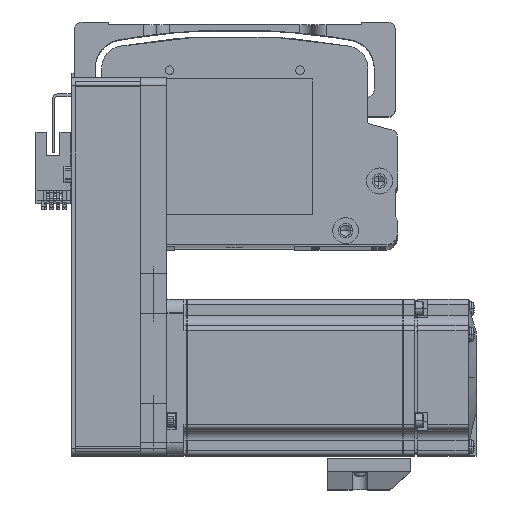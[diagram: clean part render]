
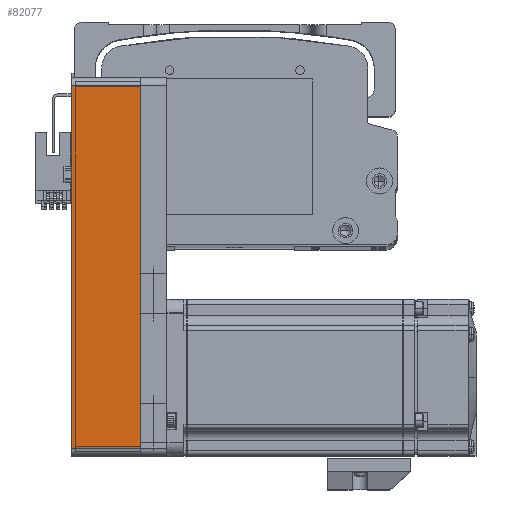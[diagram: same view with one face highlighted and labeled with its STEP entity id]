
A CAD part, top view. The second image highlights one B-rep face of the part: STEP entity #82077.
In plain terms, the highlighted planar face has unit normal (0, 0, 1) as drawn and (0, 1, 0) by its records, which use the part's own axes.
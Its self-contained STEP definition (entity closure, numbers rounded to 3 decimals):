
#1793 = CARTESIAN_POINT ( 'NONE',  ( 72.5, 30., 26.5 ) ) ;
#3953 = CARTESIAN_POINT ( 'NONE',  ( -69.5, 30., 26.5 ) ) ;
#5366 = LINE ( 'NONE', #66568, #71870 ) ;
#7051 = VERTEX_POINT ( 'NONE', #19341 ) ;
#7737 = DIRECTION ( 'NONE',  ( 0., 0., -1. ) ) ;
#8292 = DIRECTION ( 'NONE',  ( 1., 0., 0. ) ) ;
#8455 = VERTEX_POINT ( 'NONE', #3953 ) ;
#12234 = LINE ( 'NONE', #27638, #61618 ) ;
#17480 = EDGE_LOOP ( 'NONE', ( #54730, #35349, #71503, #65793 ) ) ;
#18447 = LINE ( 'NONE', #20647, #65768 ) ;
#19341 = CARTESIAN_POINT ( 'NONE',  ( 69.5, 30., 26.5 ) ) ;
#20647 = CARTESIAN_POINT ( 'NONE',  ( 72.5, 30., 0. ) ) ;
#23588 = CARTESIAN_POINT ( 'NONE',  ( -69.5, 30., 0. ) ) ;
#25766 = EDGE_CURVE ( 'NONE', #34668, #52455, #18447, .T. ) ;
#27638 = CARTESIAN_POINT ( 'NONE',  ( 72.5, 30., 26.5 ) ) ;
#27935 = DIRECTION ( 'NONE',  ( 0., 0., 1. ) ) ;
#30960 = EDGE_CURVE ( 'NONE', #7051, #34668, #66888, .T. ) ;
#32518 = VECTOR ( 'NONE', #7737, 1000. ) ;
#34668 = VERTEX_POINT ( 'NONE', #42182 ) ;
#35349 = ORIENTED_EDGE ( 'NONE', *, *, #46612, .T. ) ;
#40323 = PLANE ( 'NONE',  #76317 ) ;
#42182 = CARTESIAN_POINT ( 'NONE',  ( 69.5, 30., 0. ) ) ;
#43696 = EDGE_CURVE ( 'NONE', #7051, #8455, #12234, .T. ) ;
#45037 = FACE_OUTER_BOUND ( 'NONE', #17480, .T. ) ;
#46612 = EDGE_CURVE ( 'NONE', #52455, #8455, #5366, .T. ) ;
#46848 = DIRECTION ( 'NONE',  ( 0., -1., 0. ) ) ;
#52455 = VERTEX_POINT ( 'NONE', #23588 ) ;
#54730 = ORIENTED_EDGE ( 'NONE', *, *, #25766, .T. ) ;
#61618 = VECTOR ( 'NONE', #79158, 1000. ) ;
#65744 = CARTESIAN_POINT ( 'NONE',  ( 69.5, 30., 26.5 ) ) ;
#65768 = VECTOR ( 'NONE', #72696, 1000. ) ;
#65793 = ORIENTED_EDGE ( 'NONE', *, *, #30960, .T. ) ;
#66568 = CARTESIAN_POINT ( 'NONE',  ( -69.5, 30., 26.5 ) ) ;
#66888 = LINE ( 'NONE', #65744, #32518 ) ;
#71503 = ORIENTED_EDGE ( 'NONE', *, *, #43696, .F. ) ;
#71870 = VECTOR ( 'NONE', #27935, 1000. ) ;
#72696 = DIRECTION ( 'NONE',  ( -1., 0., 0. ) ) ;
#76317 = AXIS2_PLACEMENT_3D ( 'NONE', #1793, #46848, #8292 ) ;
#79158 = DIRECTION ( 'NONE',  ( -1., 0., 0. ) ) ;
#82077 = ADVANCED_FACE ( 'NONE', ( #45037 ), #40323, .F. ) ;
